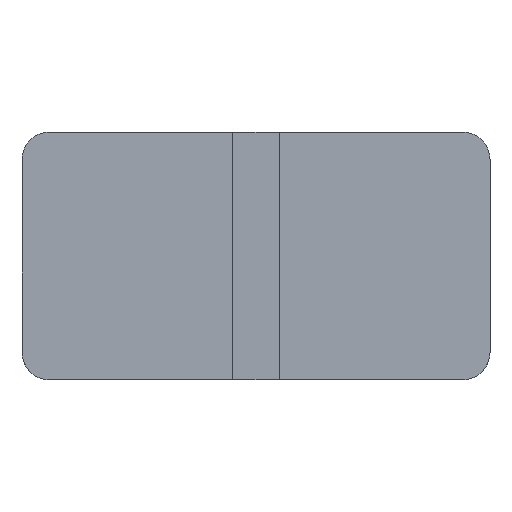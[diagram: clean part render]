
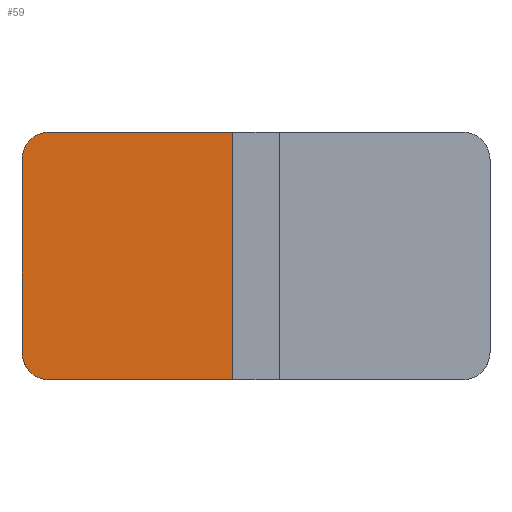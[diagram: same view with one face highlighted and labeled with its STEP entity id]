
A CAD part, top view. The second image highlights one B-rep face of the part: STEP entity #59.
In plain terms, the highlighted planar face has unit normal (0, 0, 1).
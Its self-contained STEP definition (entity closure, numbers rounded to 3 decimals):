
#21 = EDGE_CURVE('',#22,#24,#26,.T.);
#22 = VERTEX_POINT('',#23);
#23 = CARTESIAN_POINT('',(0.,2.,5.));
#24 = VERTEX_POINT('',#25);
#25 = CARTESIAN_POINT('',(2.,0.,5.));
#26 = CIRCLE('',#27,2.);
#27 = AXIS2_PLACEMENT_3D('',#28,#29,#30);
#28 = CARTESIAN_POINT('',(2.,2.,5.));
#29 = DIRECTION('',(0.,0.,1.));
#30 = DIRECTION('',(1.,0.,-0.));
#59 = ADVANCED_FACE('',(#60),#102,.T.);
#60 = FACE_BOUND('',#61,.T.);
#61 = EDGE_LOOP('',(#62,#70,#71,#79,#87,#95));
#62 = ORIENTED_EDGE('',*,*,#63,.F.);
#63 = EDGE_CURVE('',#22,#64,#66,.T.);
#64 = VERTEX_POINT('',#65);
#65 = CARTESIAN_POINT('',(0.,16.,5.));
#66 = LINE('',#67,#68);
#67 = CARTESIAN_POINT('',(0.,2.,5.));
#68 = VECTOR('',#69,1.);
#69 = DIRECTION('',(-0.,1.,0.));
#70 = ORIENTED_EDGE('',*,*,#21,.T.);
#71 = ORIENTED_EDGE('',*,*,#72,.T.);
#72 = EDGE_CURVE('',#24,#73,#75,.T.);
#73 = VERTEX_POINT('',#74);
#74 = CARTESIAN_POINT('',(15.3,0.,5.));
#75 = LINE('',#76,#77);
#76 = CARTESIAN_POINT('',(2.,0.,5.));
#77 = VECTOR('',#78,1.);
#78 = DIRECTION('',(1.,0.,-0.));
#79 = ORIENTED_EDGE('',*,*,#80,.T.);
#80 = EDGE_CURVE('',#73,#81,#83,.T.);
#81 = VERTEX_POINT('',#82);
#82 = CARTESIAN_POINT('',(15.3,18.,5.));
#83 = LINE('',#84,#85);
#84 = CARTESIAN_POINT('',(15.3,3.,5.));
#85 = VECTOR('',#86,1.);
#86 = DIRECTION('',(-0.,1.,0.));
#87 = ORIENTED_EDGE('',*,*,#88,.F.);
#88 = EDGE_CURVE('',#89,#81,#91,.T.);
#89 = VERTEX_POINT('',#90);
#90 = CARTESIAN_POINT('',(2.,18.,5.));
#91 = LINE('',#92,#93);
#92 = CARTESIAN_POINT('',(2.,18.,5.));
#93 = VECTOR('',#94,1.);
#94 = DIRECTION('',(1.,0.,-0.));
#95 = ORIENTED_EDGE('',*,*,#96,.T.);
#96 = EDGE_CURVE('',#89,#64,#97,.T.);
#97 = CIRCLE('',#98,2.);
#98 = AXIS2_PLACEMENT_3D('',#99,#100,#101);
#99 = CARTESIAN_POINT('',(2.,16.,5.));
#100 = DIRECTION('',(0.,0.,1.));
#101 = DIRECTION('',(1.,0.,-0.));
#102 = PLANE('',#103);
#103 = AXIS2_PLACEMENT_3D('',#104,#105,#106);
#104 = CARTESIAN_POINT('',(17.,9.,5.));
#105 = DIRECTION('',(0.,0.,1.));
#106 = DIRECTION('',(1.,0.,-0.));
